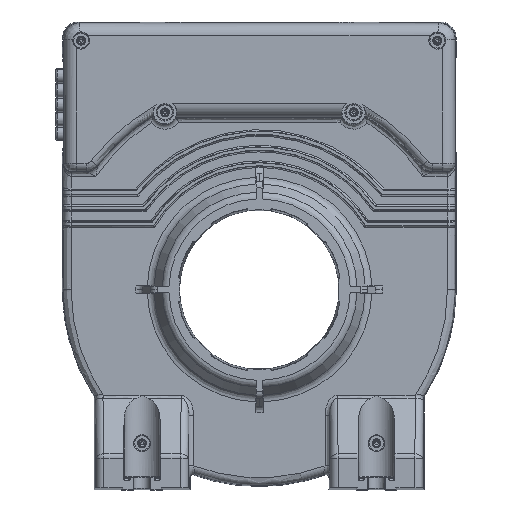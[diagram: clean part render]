
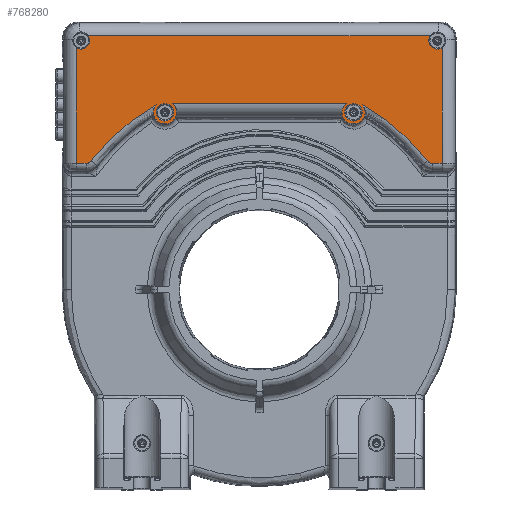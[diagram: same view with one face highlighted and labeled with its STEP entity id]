
A CAD part, top view. The second image highlights one B-rep face of the part: STEP entity #768280.
In plain terms, the highlighted planar face has unit normal (0, 0, 1).
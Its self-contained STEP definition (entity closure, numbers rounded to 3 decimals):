
#766410=CARTESIAN_POINT('',(53.739,110.448,93.745));
#766420=DIRECTION('',(0.,0.,-1.));
#766430=DIRECTION('',(1.,0.,0.));
#766440=AXIS2_PLACEMENT_3D('',#766410,#766420,#766430);
#766450=PLANE('',#766440);
#766460=CARTESIAN_POINT('',(-107.251,-3.083,
93.745));
#766470=DIRECTION('',(0.,0.,-1.));
#766480=DIRECTION('',(-1.,0.,0.));
#766490=AXIS2_PLACEMENT_3D('',#766460,#766470,#766480);
#766500=CIRCLE('',#766490,5.507);
#766510=CARTESIAN_POINT('',(-110.417,1.424,
93.745));
#766520=VERTEX_POINT('',#766510);
#766530=CARTESIAN_POINT('',(-101.743,-3.083,
93.745));
#766540=VERTEX_POINT('',#766530);
#766550=EDGE_CURVE('',#766520,#766540,#766500,.T.);
#766560=ORIENTED_EDGE('',*,*,#766550,.T.);
#766570=CARTESIAN_POINT('',(-110.417,175.25,
93.745));
#766580=DIRECTION('',(0.,-1.,0.));
#766590=VECTOR('',#766580,1.);
#766600=LINE('',#766570,#766590);
#766610=CARTESIAN_POINT('',(-110.417,75.464,
93.745));
#766620=VERTEX_POINT('',#766610);
#766630=EDGE_CURVE('',#766620,#766520,#766600,.T.);
#766640=ORIENTED_EDGE('',*,*,#766630,.T.);
#766650=CARTESIAN_POINT('',(1.696,75.464,
93.745));
#766660=DIRECTION('',(1.,0.,0.));
#766670=VECTOR('',#766660,1.);
#766680=LINE('',#766650,#766670);
#766690=CARTESIAN_POINT('',(-104.026,75.464,93.745
));
#766700=VERTEX_POINT('',#766690);
#766710=EDGE_CURVE('',#766620,#766700,#766680,.T.);
#766720=ORIENTED_EDGE('',*,*,#766710,.F.);
#766730=CARTESIAN_POINT('',(-100.866,73.915,
93.745));
#766740=CARTESIAN_POINT('',(-101.238,74.395,
93.745));
#766750=CARTESIAN_POINT('',(-101.702,74.801,
93.745));
#766760=CARTESIAN_POINT('',(-102.235,75.121,
93.745));
#766770=CARTESIAN_POINT('',(-102.814,75.346,
93.745));
#766780=CARTESIAN_POINT('',(-103.419,75.464,93.745
));
#766790=CARTESIAN_POINT('',(-104.026,75.464,93.745
));
#766800=B_SPLINE_CURVE_WITH_KNOTS('',6,(#766730,#766740,#766750,#766760,
#766770,#766780,#766790),.UNSPECIFIED.,.F.,.F.,(7,7),(0.,1.),
.UNSPECIFIED.);
#766810=CARTESIAN_POINT('',(-100.866,73.915,
93.745));
#766820=VERTEX_POINT('',#766810);
#766830=EDGE_CURVE('',#766820,#766700,#766800,.T.);
#766840=ORIENTED_EDGE('',*,*,#766830,.T.);
#766850=CARTESIAN_POINT('',(9.253,159.322,
93.745));
#766860=DIRECTION('',(0.,0.,1.));
#766870=DIRECTION('',(1.,0.,0.));
#766880=AXIS2_PLACEMENT_3D('',#766850,#766860,#766870);
#766890=CIRCLE('',#766880,139.357);
#766900=CARTESIAN_POINT('',(-59.12,37.89,
93.745));
#766910=VERTEX_POINT('',#766900);
#766920=EDGE_CURVE('',#766820,#766910,#766890,.T.);
#766930=ORIENTED_EDGE('',*,*,#766920,.F.);
#766940=CARTESIAN_POINT('',(-53.626,42.847,93.745
));
#766950=DIRECTION('',(0.,0.,-1.));
#766960=DIRECTION('',(-1.,0.,0.));
#766970=AXIS2_PLACEMENT_3D('',#766940,#766950,#766960);
#766980=CIRCLE('',#766970,7.399);
#766990=CARTESIAN_POINT('',(-61.025,42.847,93.745
));
#767000=VERTEX_POINT('',#766990);
#767010=EDGE_CURVE('',#766910,#767000,#766980,.T.);
#767020=ORIENTED_EDGE('',*,*,#767010,.F.);
#767030=CARTESIAN_POINT('',(-46.226,42.847,93.745
));
#767040=VERTEX_POINT('',#767030);
#767050=EDGE_CURVE('',#767000,#767040,#766980,.T.);
#767060=ORIENTED_EDGE('',*,*,#767050,.F.);
#767070=CARTESIAN_POINT('',(-49.119,36.978,93.745
));
#767080=VERTEX_POINT('',#767070);
#767090=EDGE_CURVE('',#767040,#767080,#766980,.T.);
#767100=ORIENTED_EDGE('',*,*,#767090,.F.);
#767110=CARTESIAN_POINT('',(11.696,36.978,
93.745));
#767120=DIRECTION('',(-1.,0.,0.));
#767130=VECTOR('',#767120,1.);
#767140=LINE('',#767110,#767130);
#767150=CARTESIAN_POINT('',(62.511,36.978,
93.745));
#767160=VERTEX_POINT('',#767150);
#767170=EDGE_CURVE('',#767160,#767080,#767140,.T.);
#767180=ORIENTED_EDGE('',*,*,#767170,.T.);
#767190=CARTESIAN_POINT('',(67.018,42.847,93.745)
);
#767200=DIRECTION('',(0.,0.,1.));
#767210=DIRECTION('',(1.,0.,0.));
#767220=AXIS2_PLACEMENT_3D('',#767190,#767200,#767210);
#767230=CIRCLE('',#767220,7.399);
#767240=CARTESIAN_POINT('',(59.618,42.847,
93.745));
#767250=VERTEX_POINT('',#767240);
#767260=EDGE_CURVE('',#767250,#767160,#767230,.T.);
#767270=ORIENTED_EDGE('',*,*,#767260,.T.);
#767280=CARTESIAN_POINT('',(74.417,42.847,
93.745));
#767290=VERTEX_POINT('',#767280);
#767300=EDGE_CURVE('',#767290,#767250,#767230,.T.);
#767310=ORIENTED_EDGE('',*,*,#767300,.T.);
#767320=CARTESIAN_POINT('',(72.512,37.89,
93.745));
#767330=VERTEX_POINT('',#767320);
#767340=EDGE_CURVE('',#767330,#767290,#767230,.T.);
#767350=ORIENTED_EDGE('',*,*,#767340,.T.);
#767360=CARTESIAN_POINT('',(4.14,159.322,
93.745));
#767370=DIRECTION('',(0.,0.,-1.));
#767380=DIRECTION('',(-1.,0.,0.));
#767390=AXIS2_PLACEMENT_3D('',#767360,#767370,#767380);
#767400=CIRCLE('',#767390,139.357);
#767410=CARTESIAN_POINT('',(114.258,73.915,
93.745));
#767420=VERTEX_POINT('',#767410);
#767430=EDGE_CURVE('',#767420,#767330,#767400,.T.);
#767440=ORIENTED_EDGE('',*,*,#767430,.T.);
#767450=CARTESIAN_POINT('',(114.258,73.915,
93.745));
#767460=CARTESIAN_POINT('',(114.631,74.395,
93.745));
#767470=CARTESIAN_POINT('',(115.094,74.801,
93.745));
#767480=CARTESIAN_POINT('',(115.627,75.121,
93.745));
#767490=CARTESIAN_POINT('',(116.207,75.346,
93.745));
#767500=CARTESIAN_POINT('',(116.811,75.464,93.745)
);
#767510=CARTESIAN_POINT('',(117.419,75.464,93.745)
);
#767520=B_SPLINE_CURVE_WITH_KNOTS('',6,(#767450,#767460,#767470,#767480,
#767490,#767500,#767510),.UNSPECIFIED.,.F.,.F.,(7,7),(0.,1.),
.UNSPECIFIED.);
#767530=CARTESIAN_POINT('',(117.419,75.464,93.745)
);
#767540=VERTEX_POINT('',#767530);
#767550=EDGE_CURVE('',#767420,#767540,#767520,.T.);
#767560=ORIENTED_EDGE('',*,*,#767550,.F.);
#767570=CARTESIAN_POINT('',(11.696,75.464,
93.745));
#767580=DIRECTION('',(-1.,0.,0.));
#767590=VECTOR('',#767580,1.);
#767600=LINE('',#767570,#767590);
#767610=CARTESIAN_POINT('',(123.809,75.464,93.745)
);
#767620=VERTEX_POINT('',#767610);
#767630=EDGE_CURVE('',#767620,#767540,#767600,.T.);
#767640=ORIENTED_EDGE('',*,*,#767630,.T.);
#767650=CARTESIAN_POINT('',(123.809,171.25,93.745)
);
#767660=DIRECTION('',(0.,-1.,0.));
#767670=VECTOR('',#767660,1.);
#767680=LINE('',#767650,#767670);
#767690=CARTESIAN_POINT('',(123.809,1.424,
93.745));
#767700=VERTEX_POINT('',#767690);
#767710=EDGE_CURVE('',#767620,#767700,#767680,.T.);
#767720=ORIENTED_EDGE('',*,*,#767710,.F.);
#767730=CARTESIAN_POINT('',(120.643,-3.083,
93.745));
#767740=DIRECTION('',(0.,0.,1.));
#767750=DIRECTION('',(-1.,0.,0.));
#767760=AXIS2_PLACEMENT_3D('',#767730,#767740,#767750);
#767770=CIRCLE('',#767760,5.507);
#767780=CARTESIAN_POINT('',(115.135,-3.083,
93.745));
#767790=VERTEX_POINT('',#767780);
#767800=EDGE_CURVE('',#767700,#767790,#767770,.T.);
#767810=ORIENTED_EDGE('',*,*,#767800,.F.);
#767820=CARTESIAN_POINT('',(116.063,-6.142,
93.745));
#767830=VERTEX_POINT('',#767820);
#767840=EDGE_CURVE('',#767790,#767830,#767770,.T.);
#767850=ORIENTED_EDGE('',*,*,#767840,.F.);
#767860=CARTESIAN_POINT('',(11.696,-6.142,
93.745));
#767870=DIRECTION('',(-1.,0.,0.));
#767880=VECTOR('',#767870,1.);
#767890=LINE('',#767860,#767880);
#767900=CARTESIAN_POINT('',(-102.671,-6.142,
93.745));
#767910=VERTEX_POINT('',#767900);
#767920=EDGE_CURVE('',#767830,#767910,#767890,.T.);
#767930=ORIENTED_EDGE('',*,*,#767920,.F.);
#767940=EDGE_CURVE('',#766540,#767910,#766500,.T.);
#767950=ORIENTED_EDGE('',*,*,#767940,.T.);
#767960=EDGE_LOOP('',(#767950,#767930,#767850,#767810,#767720,#767640,
#767560,#767440,#767350,#767310,#767270,#767180,#767100,#767060,#767020,
#766930,#766840,#766720,#766640,#766560));
#767970=FACE_OUTER_BOUND('',#767960,.T.);
#767980=CARTESIAN_POINT('',(-53.626,42.847,93.745
));
#767990=DIRECTION('',(0.,0.,-1.));
#768000=DIRECTION('',(-1.,0.,0.));
#768010=AXIS2_PLACEMENT_3D('',#767980,#767990,#768000);
#768020=CIRCLE('',#768010,5.621);
#768030=CARTESIAN_POINT('',(-59.246,42.847,93.745
));
#768040=VERTEX_POINT('',#768030);
#768050=CARTESIAN_POINT('',(-48.005,42.847,93.745
));
#768060=VERTEX_POINT('',#768050);
#768070=EDGE_CURVE('',#768040,#768060,#768020,.T.);
#768080=ORIENTED_EDGE('',*,*,#768070,.T.);
#768090=EDGE_CURVE('',#768060,#768040,#768020,.T.);
#768100=ORIENTED_EDGE('',*,*,#768090,.T.);
#768110=EDGE_LOOP('',(#768100,#768080));
#768120=FACE_BOUND('',#768110,.T.);
#768130=CARTESIAN_POINT('',(67.018,42.847,93.745)
);
#768140=DIRECTION('',(0.,0.,1.));
#768150=DIRECTION('',(-1.,0.,0.));
#768160=AXIS2_PLACEMENT_3D('',#768130,#768140,#768150);
#768170=CIRCLE('',#768160,5.621);
#768180=CARTESIAN_POINT('',(61.397,42.847,93.745)
);
#768190=VERTEX_POINT('',#768180);
#768200=CARTESIAN_POINT('',(72.639,42.847,93.745)
);
#768210=VERTEX_POINT('',#768200);
#768220=EDGE_CURVE('',#768190,#768210,#768170,.T.);
#768230=ORIENTED_EDGE('',*,*,#768220,.F.);
#768240=EDGE_CURVE('',#768210,#768190,#768170,.T.);
#768250=ORIENTED_EDGE('',*,*,#768240,.F.);
#768260=EDGE_LOOP('',(#768250,#768230));
#768270=FACE_BOUND('',#768260,.T.);
#768280=ADVANCED_FACE('',(#767970,#768120,#768270),#766450,.F.);
